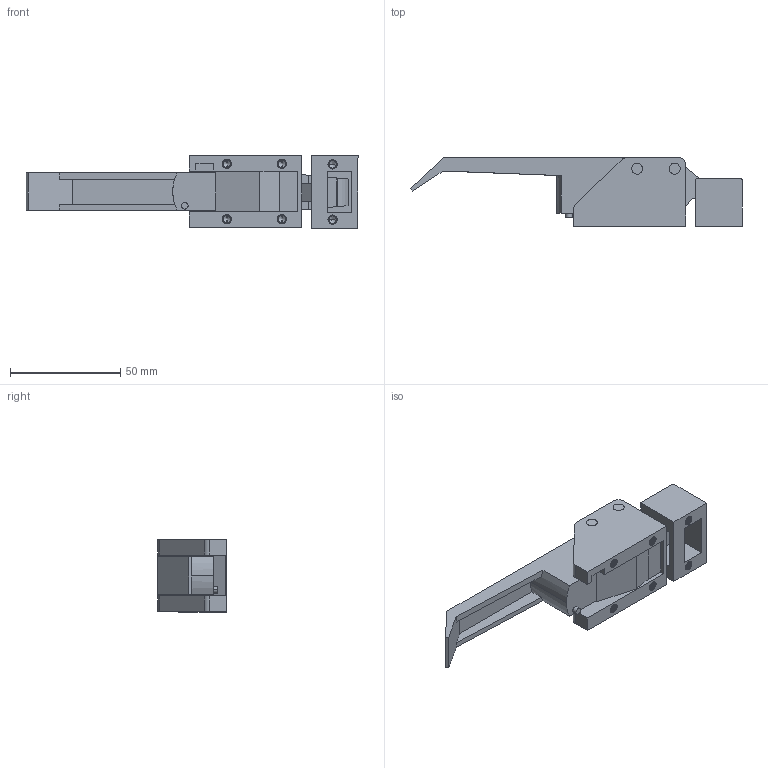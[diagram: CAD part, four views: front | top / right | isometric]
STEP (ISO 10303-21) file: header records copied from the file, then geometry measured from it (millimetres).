
FILE_DESCRIPTION (( 'STEP AP203' ), '1' );
FILE_NAME ('SK1-093-1S.STEP', '2023-08-02T02:09:16', ( '' ), ( '' ), 'SwSTEP 2.0', 'SolidWorks 2019', '' );
FILE_SCHEMA (( 'CONFIG_CONTROL_DESIGN' ));
Length unit declared in the file: millimetre
Products named in the file (8): 錨璃1^蚾饜极1; 參忒; 釱赽; 17mm种隊; 坶忕x; 笢潔蟈諉; 參忒菁釱; SK1-093-1S
Assembly tree (8 placements, depth 2):
  SK1-093-1S
    參忒
    參忒菁釱
    坶忕x
    釱赽
    錨璃1^蚾饜极1
    17mm种隊  x2
    笢潔蟈諉
Bounding box: 150.5 x 31 x 33 mm (x, y, z)
Volume: 49597.5 mm3; surface area: 29860.3 mm2
Topology: 9 solids, 9 shells, 430 faces, 1223 edges, 798 vertices
Faces by surface type: cylinder 288, plane 112, bspline 18, cone 12
Entity records: 27105 total; most frequent: CARTESIAN_POINT 16564, ORIENTED_EDGE 2410, DIRECTION 1673, EDGE_CURVE 1205, VERTEX_POINT 794, AXIS2_PLACEMENT_3D 563, VECTOR 547, LINE 547
